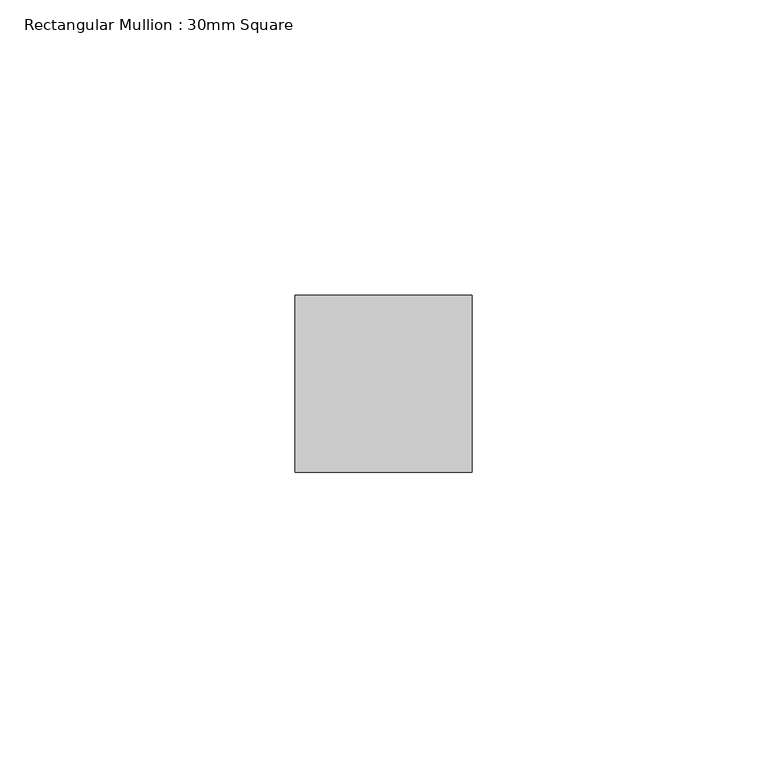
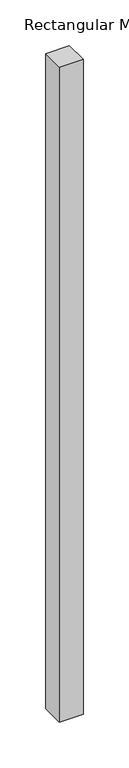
"""IFC4 building model written with IfcOpenShell, lengths in millimetres: member geometry, Rectangular Mullion : 30mm Square."""

from ifc_helpers import new_model, si_unit, frame, origin, place, context, project, spatial, polyline, outline, extrude, source, transform, mapped, element, save


def rectangular_mullion_30mm_square_060a85df(model_context):
    return source(origin(), model_context, "Body", "SweptSolid", [
        extrude(outline(polyline([(0.0, 15.0), (0.0, -15.0), (-30.0, -15.0), (-30.0, 15.0), (0.0, 15.0)])), frame((0.0, 0.0, -875.0), z_axis=(0.0, 0.0, 1.0), x_axis=(1.0, 0.0, 0.0)), (0.0, 0.0, 1.0), 875.0),
    ])


if __name__ == "__main__":
    model = new_model("IFC4")
    model_context = context("Model", 3, world=origin())
    ifc_project = project(units=[si_unit("LENGTHUNIT", "METRE", prefix="MILLI")], contexts=[model_context])
    site = spatial("IfcSite", under=ifc_project)
    building = spatial("IfcBuilding", under=site)
    placement = place(None, origin())
    rectangular_mullion_30mm_square_shape = rectangular_mullion_30mm_square_060a85df(model_context)
    element("IfcMember", 1, ObjectType="Rectangular Mullion : 30mm Square", at=placement, inside=building, context=model_context, shape_type="MappedRepresentation", body=[
        mapped(rectangular_mullion_30mm_square_shape, transform((0.0, 0.0, 0.0), x_axis=(1.0, 0.0, 0.0), y_axis=(0.0, 1.0, 0.0), z_axis=(0.0, 0.0, 1.0))),
    ])
    save(model, "model.ifc")
